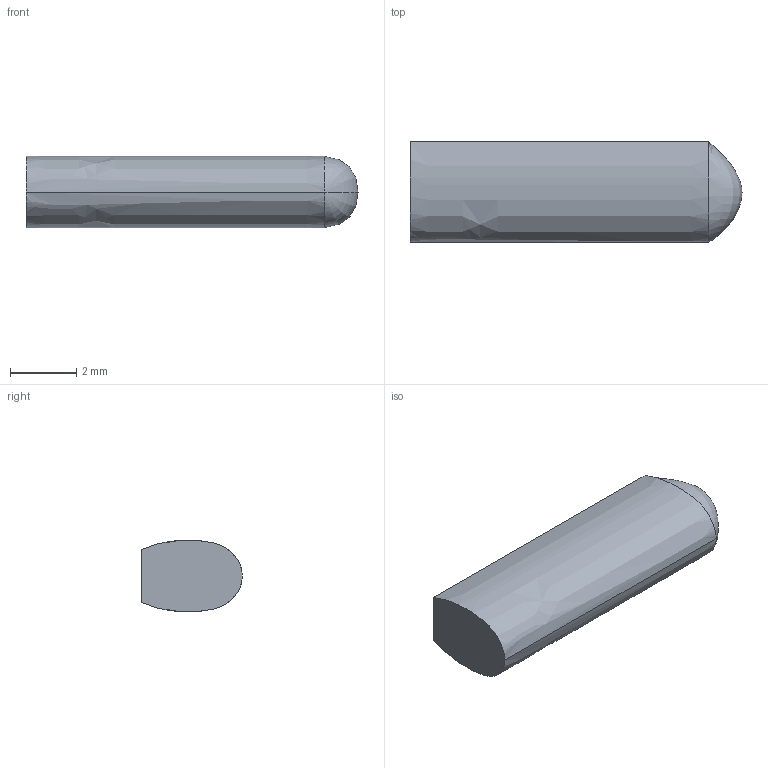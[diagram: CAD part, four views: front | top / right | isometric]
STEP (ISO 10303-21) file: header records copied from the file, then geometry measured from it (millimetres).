
FILE_DESCRIPTION((''),'1');
FILE_NAME('ELEK-ST10-08E','2001-03-29T',('rgoetz'),(''),'PRO/ENGINEER BY PARAMETRIC TECHNOLOGY CORPORATION, 2000350','PRO/ENGINEER BY PARAMETRIC TECHNOLOGY CORPORATION, 2000350','');
FILE_SCHEMA(('CONFIG_CONTROL_DESIGN'));
Length unit declared in the file: millimetre
Products named in the file (1): ELEK-ST10-08E
Bounding box: 10 x 3.03 x 2.15 mm (x, y, z)
Volume: 54.1 mm3; surface area: 94.2 mm2
Topology: 1 solids, 1 shells, 6 faces, 13 edges, 7 vertices
Faces by surface type: plane 2, extrusion 2, bspline 2
Entity records: 515 total; most frequent: CARTESIAN_POINT 374, ORIENTED_EDGE 22, EDGE_CURVE 11, DIRECTION 10, B_SPLINE_CURVE_WITH_KNOTS 9, VERTEX_POINT 7, VECTOR 6, EDGE_LOOP 6
